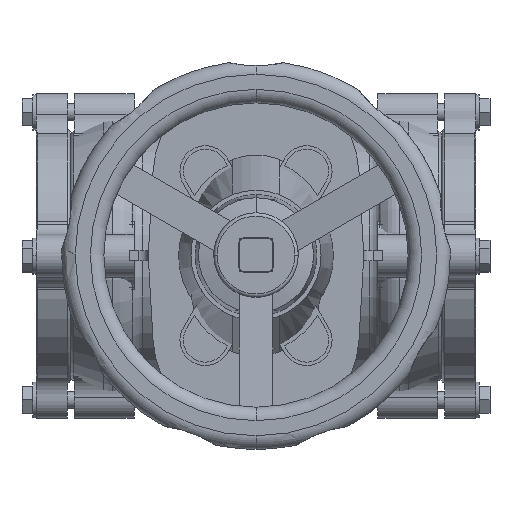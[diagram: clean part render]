
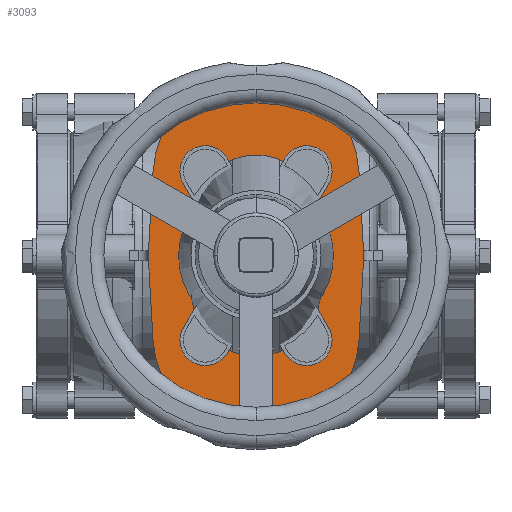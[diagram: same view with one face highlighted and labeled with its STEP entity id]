
A CAD part, top view. The second image highlights one B-rep face of the part: STEP entity #3093.
In plain terms, the highlighted planar face has unit normal (0, 0, 1).
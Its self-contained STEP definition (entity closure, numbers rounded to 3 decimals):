
#3093=ADVANCED_FACE('',(#5826),#5827,.T.);
#5826=FACE_OUTER_BOUND('',#9073,.T.);
#5827=PLANE('',#9074);
#9073=EDGE_LOOP('',(#15100,#15101,#15102,#15103,#15104,#15105,#15106,#15107,#15108,#15109));
#9074=AXIS2_PLACEMENT_3D('',#15110,#15111,#15112);
#15100=ORIENTED_EDGE('',*,*,#19329,.F.);
#15101=ORIENTED_EDGE('',*,*,#19362,.F.);
#15102=ORIENTED_EDGE('',*,*,#18161,.F.);
#15103=ORIENTED_EDGE('',*,*,#19129,.F.);
#15104=ORIENTED_EDGE('',*,*,#16961,.F.);
#15105=ORIENTED_EDGE('',*,*,#18877,.F.);
#15106=ORIENTED_EDGE('',*,*,#18459,.F.);
#15107=ORIENTED_EDGE('',*,*,#19363,.F.);
#15108=ORIENTED_EDGE('',*,*,#17000,.F.);
#15109=ORIENTED_EDGE('',*,*,#18042,.F.);
#15110=CARTESIAN_POINT('',(40.,0.006,158.0));
#15111=DIRECTION('',(0.0,0.0,1.0));
#15112=DIRECTION('',(1.0,0.0,0.0));
#16961=EDGE_CURVE('',#19778,#19779,#19780,.T.);
#17000=EDGE_CURVE('',#19849,#19845,#19851,.T.);
#18042=EDGE_CURVE('',#21565,#19849,#21566,.T.);
#18161=EDGE_CURVE('',#21741,#21743,#21744,.T.);
#18459=EDGE_CURVE('',#22198,#22199,#22200,.T.);
#18877=EDGE_CURVE('',#22199,#19778,#22785,.T.);
#19129=EDGE_CURVE('',#19779,#21741,#23110,.T.);
#19329=EDGE_CURVE('',#23352,#21565,#23353,.T.);
#19362=EDGE_CURVE('',#21743,#23352,#23391,.T.);
#19363=EDGE_CURVE('',#19845,#22198,#23392,.T.);
#19778=VERTEX_POINT('',#23843);
#19779=VERTEX_POINT('',#23844);
#19780=LINE('',#23845,#23846);
#19845=VERTEX_POINT('',#23936);
#19849=VERTEX_POINT('',#23941);
#19851=CIRCLE('',#23944,167.639);
#21565=VERTEX_POINT('',#26297);
#21566=LINE('',#26298,#26299);
#21741=VERTEX_POINT('',#26551);
#21743=VERTEX_POINT('',#26554);
#21744=CIRCLE('',#26555,167.639);
#22198=VERTEX_POINT('',#27146);
#22199=VERTEX_POINT('',#27147);
#22200=LINE('',#27148,#27149);
#22785=CIRCLE('',#27899,61.);
#23110=CIRCLE('',#28376,167.639);
#23352=VERTEX_POINT('',#28685);
#23353=CIRCLE('',#28686,60.99);
#23391=LINE('',#28734,#28735);
#23392=CIRCLE('',#28736,167.639);
#23843=CARTESIAN_POINT('',(100.899,50.005,158.0));
#23844=CARTESIAN_POINT('',(103.223,9.633,158.0));
#23845=CARTESIAN_POINT('',(100.899,50.005,158.0));
#23846=VECTOR('',#29214,1.0);
#23936=CARTESIAN_POINT('',(-23.5,0.,158.0));
#23941=CARTESIAN_POINT('',(-23.221,-9.675,158.0));
#23944=AXIS2_PLACEMENT_3D('',#29257,#29258,#29259);
#26297=CARTESIAN_POINT('',(-20.888,-50.02,158.0));
#26298=CARTESIAN_POINT('',(-20.888,-50.02,158.0));
#26299=VECTOR('',#30754,1.0);
#26551=CARTESIAN_POINT('',(103.5,0.,158.0));
#26554=CARTESIAN_POINT('',(103.221,-9.674,158.0));
#26555=AXIS2_PLACEMENT_3D('',#30909,#30910,#30911);
#27146=CARTESIAN_POINT('',(-23.223,9.633,158.0));
#27147=CARTESIAN_POINT('',(-20.899,50.005,158.0));
#27148=CARTESIAN_POINT('',(-23.223,9.633,158.0));
#27149=VECTOR('',#31301,1.0);
#27899=AXIS2_PLACEMENT_3D('',#31848,#31849,#31850);
#28376=AXIS2_PLACEMENT_3D('',#32151,#32152,#32153);
#28685=CARTESIAN_POINT('',(100.888,-50.02,158.0));
#28686=AXIS2_PLACEMENT_3D('',#32365,#32366,#32367);
#28734=CARTESIAN_POINT('',(103.221,-9.674,158.0));
#28735=VECTOR('',#32396,1.0);
#28736=AXIS2_PLACEMENT_3D('',#32397,#32398,#32399);
#29214=DIRECTION('',(0.057,-0.998,0.0));
#29257=CARTESIAN_POINT('',(144.139,0.,158.0));
#29258=DIRECTION('',(0.0,0.0,-1.0));
#29259=DIRECTION('',(-1.0,0.0,0.0));
#30754=DIRECTION('',(-0.058,0.998,0.0));
#30909=CARTESIAN_POINT('',(-64.139,0.,158.0));
#30910=DIRECTION('',(0.0,0.0,-1.0));
#30911=DIRECTION('',(-1.0,0.0,0.0));
#31301=DIRECTION('',(0.057,0.998,0.0));
#31848=CARTESIAN_POINT('',(40.0,46.5,158.0));
#31849=DIRECTION('',(0.0,0.0,-1.0));
#31850=DIRECTION('',(-1.0,0.0,0.0));
#32151=CARTESIAN_POINT('',(-64.139,0.,158.0));
#32152=DIRECTION('',(0.0,0.0,-1.0));
#32153=DIRECTION('',(-1.0,0.0,0.0));
#32365=CARTESIAN_POINT('',(40.,-46.5,158.0));
#32366=DIRECTION('',(0.0,0.0,-1.0));
#32367=DIRECTION('',(-1.0,0.0,0.0));
#32396=DIRECTION('',(-0.058,-0.998,0.0));
#32397=CARTESIAN_POINT('',(144.139,0.,158.0));
#32398=DIRECTION('',(0.0,0.0,-1.0));
#32399=DIRECTION('',(-1.0,0.0,0.0));
